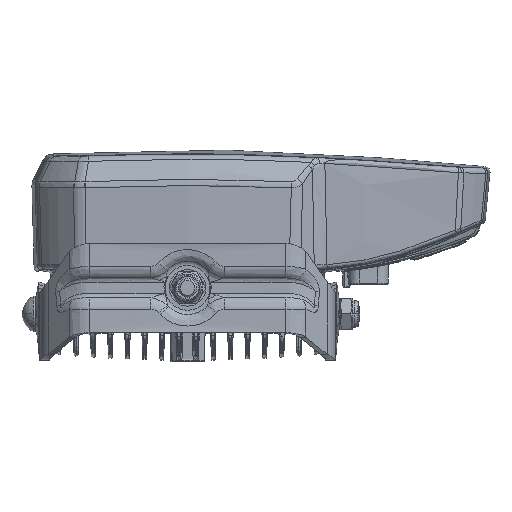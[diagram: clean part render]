
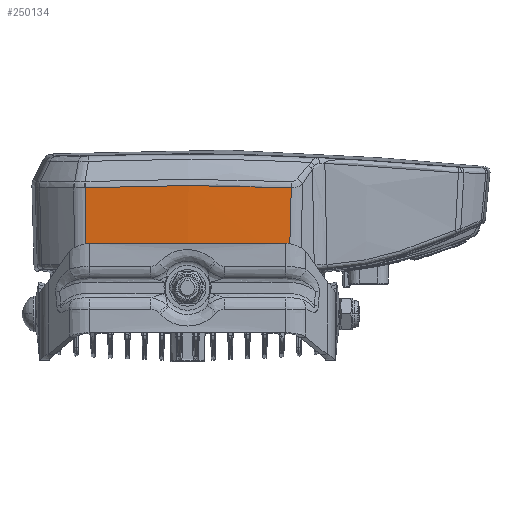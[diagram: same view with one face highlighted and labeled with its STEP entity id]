
A CAD part, front view. The second image highlights one B-rep face of the part: STEP entity #250134.
In plain terms, the highlighted conical face has half-angle 1.5 degrees and reference radius 857.5 mm.
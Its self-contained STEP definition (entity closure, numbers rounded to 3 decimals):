
#250080=AXIS2_PLACEMENT_3D('Cone Axis2P3D',#250077,#250078,#250079) ;
#245242=CARTESIAN_POINT('Vertex',(54.571,-80.587,-59.783)) ;
#247840=CARTESIAN_POINT('Control Point',(54.571,-80.587,-59.783)) ;
#247841=CARTESIAN_POINT('Control Point',(32.78,-81.955,-60.683)) ;
#247842=CARTESIAN_POINT('Control Point',(10.928,-82.641,-61.133)) ;
#247843=CARTESIAN_POINT('Control Point',(-10.943,-82.641,-61.133)) ;
#247844=CARTESIAN_POINT('Control Point',(-32.794,-81.954,-60.683)) ;
#247845=CARTESIAN_POINT('Control Point',(-54.586,-80.586,-59.783)) ;
#247846=CARTESIAN_POINT('Vertex',(-54.586,-80.586,-59.783)) ;
#247929=CARTESIAN_POINT('Vertex',(55.628,-81.605,-18.362)) ;
#247933=CARTESIAN_POINT('Control Point',(54.571,-80.587,-59.783)) ;
#247934=CARTESIAN_POINT('Control Point',(54.783,-80.791,-51.499)) ;
#247935=CARTESIAN_POINT('Control Point',(54.994,-80.994,-43.215)) ;
#247936=CARTESIAN_POINT('Control Point',(55.205,-81.198,-34.93)) ;
#247937=CARTESIAN_POINT('Control Point',(55.417,-81.402,-26.646)) ;
#247938=CARTESIAN_POINT('Control Point',(55.628,-81.605,-18.362)) ;
#250077=CARTESIAN_POINT('Axis2P3D Location',(0.,774.,-15.)) ;
#250083=CARTESIAN_POINT('Control Point',(55.628,-81.605,-18.362)) ;
#250084=CARTESIAN_POINT('Control Point',(55.294,-81.628,-18.347)) ;
#250085=CARTESIAN_POINT('Control Point',(54.96,-81.65,-18.331)) ;
#250086=CARTESIAN_POINT('Control Point',(54.625,-81.671,-18.318)) ;
#250087=CARTESIAN_POINT('Control Point',(53.955,-81.715,-18.289)) ;
#250088=CARTESIAN_POINT('Control Point',(53.283,-81.758,-18.261)) ;
#250089=CARTESIAN_POINT('Control Point',(52.946,-81.779,-18.246)) ;
#250090=CARTESIAN_POINT('Control Point',(51.936,-81.842,-18.204)) ;
#250091=CARTESIAN_POINT('Control Point',(50.923,-81.904,-18.163)) ;
#250092=CARTESIAN_POINT('Control Point',(50.246,-81.945,-18.136)) ;
#250093=CARTESIAN_POINT('Control Point',(48.211,-82.065,-18.056)) ;
#250094=CARTESIAN_POINT('Control Point',(46.165,-82.18,-17.979)) ;
#250095=CARTESIAN_POINT('Control Point',(44.797,-82.254,-17.93)) ;
#250096=CARTESIAN_POINT('Control Point',(40.676,-82.468,-17.787)) ;
#250097=CARTESIAN_POINT('Control Point',(36.518,-82.659,-17.661)) ;
#250098=CARTESIAN_POINT('Control Point',(33.731,-82.775,-17.584)) ;
#250099=CARTESIAN_POINT('Control Point',(28.497,-82.972,-17.455)) ;
#250100=CARTESIAN_POINT('Control Point',(23.224,-83.129,-17.353)) ;
#250101=CARTESIAN_POINT('Control Point',(20.766,-83.193,-17.311)) ;
#250102=CARTESIAN_POINT('Control Point',(7.353,-83.495,-17.117)) ;
#250103=CARTESIAN_POINT('Control Point',(-6.215,-83.53,-17.096)) ;
#250104=CARTESIAN_POINT('Control Point',(-17.325,-83.375,-17.198)) ;
#250105=CARTESIAN_POINT('Control Point',(-31.545,-82.941,-17.479)) ;
#250106=CARTESIAN_POINT('Control Point',(-45.638,-82.216,-17.951)) ;
#250107=CARTESIAN_POINT('Control Point',(-48.737,-82.042,-18.064)) ;
#250108=CARTESIAN_POINT('Control Point',(-51.827,-81.854,-18.186)) ;
#250109=CARTESIAN_POINT('Control Point',(-54.907,-81.653,-18.317)) ;
#250110=CARTESIAN_POINT('Vertex',(-54.907,-81.653,-18.317)) ;
#250114=CARTESIAN_POINT('Control Point',(-54.907,-81.653,-18.317)) ;
#250115=CARTESIAN_POINT('Control Point',(-54.936,-81.651,-18.318)) ;
#250116=CARTESIAN_POINT('Control Point',(-54.964,-81.65,-18.32)) ;
#250117=CARTESIAN_POINT('Control Point',(-54.992,-81.648,-18.323)) ;
#250118=CARTESIAN_POINT('Vertex',(-54.992,-81.648,-18.323)) ;
#250122=CARTESIAN_POINT('Control Point',(-54.992,-81.648,-18.323)) ;
#250123=CARTESIAN_POINT('Control Point',(-54.857,-81.294,-32.143)) ;
#250124=CARTESIAN_POINT('Control Point',(-54.722,-80.94,-45.963)) ;
#250125=CARTESIAN_POINT('Control Point',(-54.586,-80.586,-59.783)) ;
#250078=DIRECTION('Axis2P3D Direction',(-0.,-0.,1.)) ;
#250079=DIRECTION('Axis2P3D XDirection',(0.002,1.,0.)) ;
#250128=ORIENTED_EDGE('',*,*,#247939,.T.) ;
#250129=ORIENTED_EDGE('',*,*,#250112,.F.) ;
#250130=ORIENTED_EDGE('',*,*,#250120,.F.) ;
#250131=ORIENTED_EDGE('',*,*,#250126,.F.) ;
#250132=ORIENTED_EDGE('',*,*,#247848,.T.) ;
#250134=ADVANCED_FACE('Housing_gr',(#250133),#250081,.T.) ;
#247839=B_SPLINE_CURVE_WITH_KNOTS('',5,(#247840,#247841,#247842,#247843,#247844,#247845),.UNSPECIFIED.,.F.,.U.,(6,6),(223.403,377.94),.UNSPECIFIED.) ;
#247932=B_SPLINE_CURVE_WITH_KNOTS('',5,(#247933,#247934,#247935,#247936,#247937,#247938),.UNSPECIFIED.,.F.,.U.,(6,6),(19.861,78.478),.UNSPECIFIED.) ;
#250082=B_SPLINE_CURVE_WITH_KNOTS('',5,(#250083,#250084,#250085,#250086,#250087,#250088,#250089,#250090,#250091,#250092,#250093,#250094,#250095,#250096,#250097,#250098,#250099,#250100,#250101,#250102,#250103,#250104,#250105,#250106,#250107,#250108,#250109),.UNSPECIFIED.,.F.,.U.,(6,3,3,3,3,3,3,3,6),(248.25,251.317,254.385,260.519,272.788,297.325,318.644,413.352,440.126),.UNSPECIFIED.) ;
#250113=B_SPLINE_CURVE_WITH_KNOTS('',3,(#250114,#250115,#250116,#250117),.UNSPECIFIED.,.F.,.U.,(4,4),(26.082,26.58),.UNSPECIFIED.) ;
#250121=B_SPLINE_CURVE_WITH_KNOTS('',3,(#250122,#250123,#250124,#250125),.UNSPECIFIED.,.F.,.U.,(4,4),(17.678,76.335),.UNSPECIFIED.) ;
#250081=CONICAL_SURFACE('Cone',#250080,857.5,0.026) ;
#247848=EDGE_CURVE('',#247847,#245243,#247839,.F.) ;
#247939=EDGE_CURVE('',#245243,#247930,#247932,.T.) ;
#250112=EDGE_CURVE('',#250111,#247930,#250082,.F.) ;
#250120=EDGE_CURVE('',#250119,#250111,#250113,.F.) ;
#250126=EDGE_CURVE('',#247847,#250119,#250121,.F.) ;
#250127=EDGE_LOOP('',(#250128,#250129,#250130,#250131,#250132)) ;
#250133=FACE_OUTER_BOUND('',#250127,.T.) ;
#245243=VERTEX_POINT('',#245242) ;
#247847=VERTEX_POINT('',#247846) ;
#247930=VERTEX_POINT('',#247929) ;
#250111=VERTEX_POINT('',#250110) ;
#250119=VERTEX_POINT('',#250118) ;
